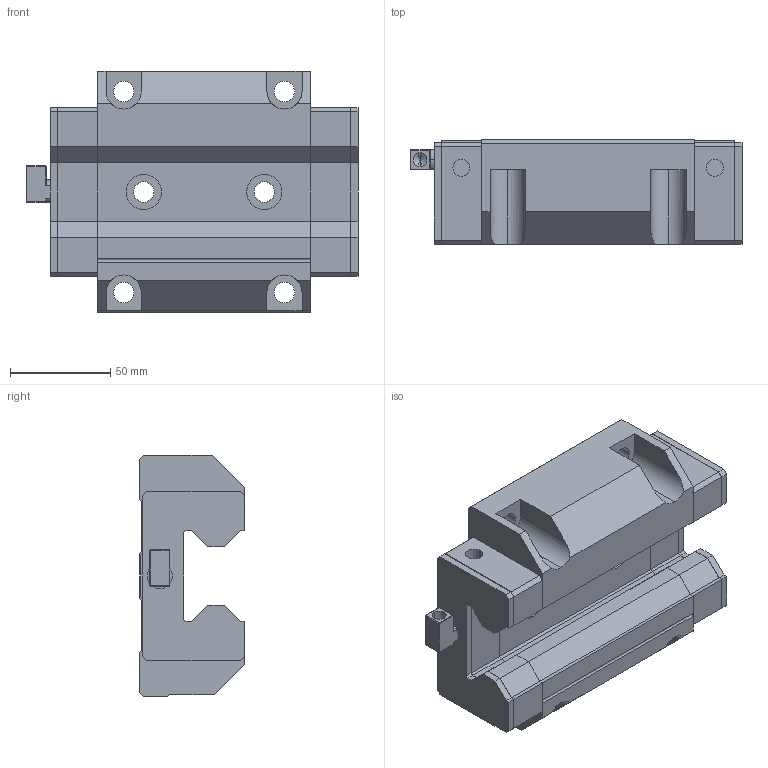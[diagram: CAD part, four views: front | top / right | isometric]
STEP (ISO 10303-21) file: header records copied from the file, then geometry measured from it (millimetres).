
FILE_DESCRIPTION (( 'STEP AP203' ), '1' );
FILE_NAME ('SGW45CC.STEP', '2025-07-11T04:56:06', ( 'Owner' ), ( 'Organization' ), 'SwSTEP 2.0', 'SolidWorks 2020', '' );
FILE_SCHEMA (( 'CONFIG_CONTROL_DESIGN' ));
Length unit declared in the file: millimetre
Products named in the file (1): SGW45CC
Bounding box: 165.2 x 52 x 120 mm (x, y, z)
Volume: 612377.1 mm3; surface area: 103360 mm2
Topology: 7 solids, 7 shells, 325 faces, 808 edges, 513 vertices
Faces by surface type: plane 258, cylinder 63, cone 4
Entity records: 9563 total; most frequent: CARTESIAN_POINT 1687, ORIENTED_EDGE 1612, DIRECTION 1574, EDGE_CURVE 806, VECTOR 662, LINE 662, VERTEX_POINT 513, AXIS2_PLACEMENT_3D 456
